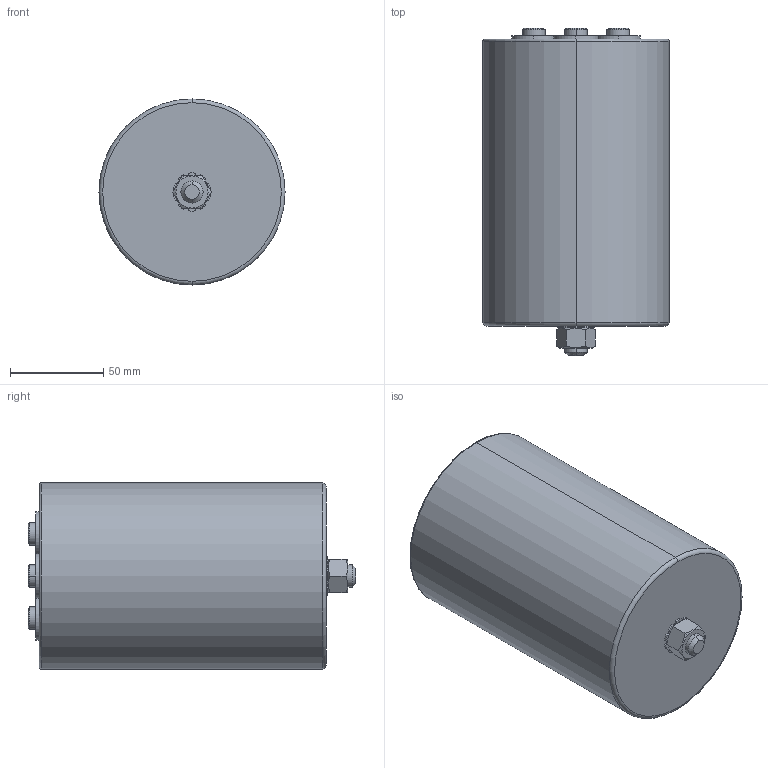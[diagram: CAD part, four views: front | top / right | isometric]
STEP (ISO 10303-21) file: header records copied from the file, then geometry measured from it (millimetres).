
FILE_DESCRIPTION (( 'STEP AP214' ), '1' );
FILE_NAME ('B25967 Series ¦µ100 Hc154 Ht160.STEP', '2025-08-20T02:07:42', ( '' ), ( '' ), 'SwSTEP 2.0', 'SolidWorks 2019', '' );
FILE_SCHEMA (( 'AUTOMOTIVE_DESIGN' ));
Length unit declared in the file: millimetre
Products named in the file (1): B25967 Series 朴100 Hc154 Ht160
Bounding box: 100 x 176 x 100 mm (x, y, z)
Volume: 1213230 mm3; surface area: 68579.1 mm2
Topology: 1 solids, 2 shells, 162 faces, 379 edges, 230 vertices
Faces by surface type: cylinder 63, plane 63, cone 30, torus 6
Entity records: 4743 total; most frequent: CARTESIAN_POINT 896, DIRECTION 885, ORIENTED_EDGE 742, EDGE_CURVE 371, AXIS2_PLACEMENT_3D 363, VERTEX_POINT 230, CIRCLE 200, EDGE_LOOP 181
